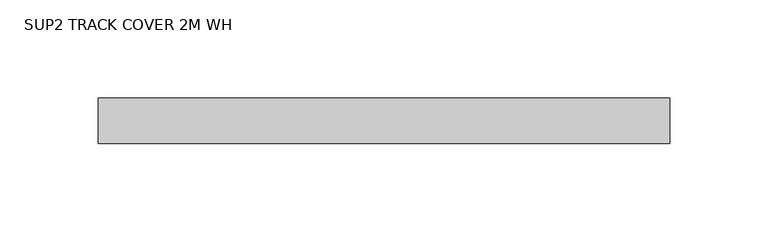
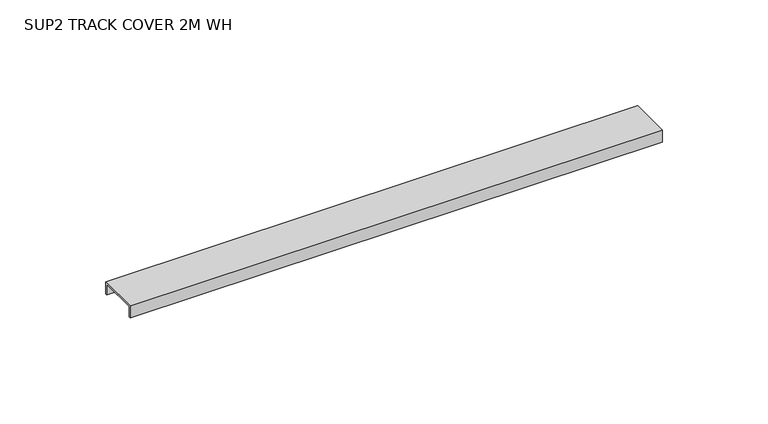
"""IFC4 building model written with IfcOpenShell, lengths in millimetres: light fixture geometry, Zumtobel SUP2 TRACK COVER 2M WH : SUP2 TRACK COVER 2M WH."""

from ifc_helpers import new_model, si_unit, frame, origin, place, context, project, spatial, polyline, outline, extrude, source, transform, mapped, element, save


def sup2_track_cover_2m_wh_4ac8b3fb(model_context):
    return source(origin(), model_context, "Body", "SweptSolid", [
        extrude(outline(polyline([(11.5, 0.0), (11.5, -7.0), (10.5, -7.0), (10.5, -1.0), (-10.5, -1.0), (-10.5, -7.0), (-11.5, -7.0), (-11.5, 0.0), (11.5, 0.0)])), frame((399.5000048, 0.0, 0.0), z_axis=(1.0, 0.0, 0.0), x_axis=(0.0, 1.0, 0.0)), (0.0, 0.0, 1.0), 290.0),
    ])


if __name__ == "__main__":
    model = new_model("IFC4")
    model_context = context("Model", 3, world=origin())
    ifc_project = project(units=[si_unit("LENGTHUNIT", "METRE", prefix="MILLI")], contexts=[model_context])
    site = spatial("IfcSite", under=ifc_project)
    building = spatial("IfcBuilding", under=site)
    placement = place(None, origin())
    sup2_track_cover_2m_wh_shape = sup2_track_cover_2m_wh_4ac8b3fb(model_context)
    element("IfcLightFixture", 1, ObjectType="Zumtobel SUP2 TRACK COVER 2M WH : SUP2 TRACK COVER 2M WH", at=placement, inside=building, context=model_context, shape_type="MappedRepresentation", body=[
        mapped(sup2_track_cover_2m_wh_shape, transform((0.0, 0.0, 0.0), x_axis=(1.0, 0.0, 0.0), y_axis=(0.0, 1.0, 0.0), z_axis=(0.0, 0.0, 1.0))),
    ])
    save(model, "model.ifc")
